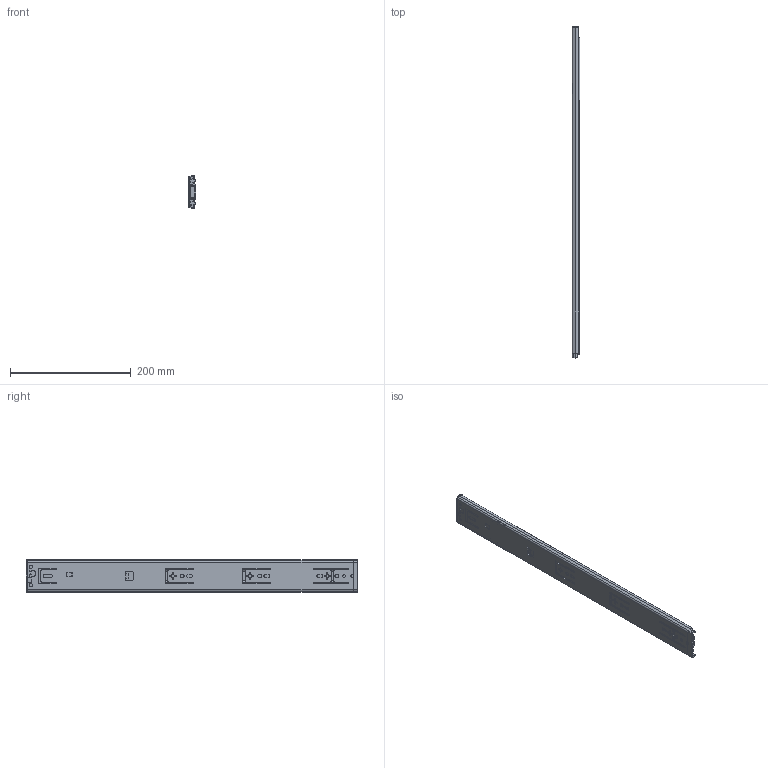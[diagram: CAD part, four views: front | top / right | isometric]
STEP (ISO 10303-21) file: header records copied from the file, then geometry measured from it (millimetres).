
FILE_DESCRIPTION( ( 'Unknown' ), '1' );
FILE_NAME( 'C:/Users/rd30/Desktop/85A01-550-Close.stp', 'Unknown', ( 'Unknown' ), ( 'Unknown' ), 'PSStep 14.0', 'Unknown', ' ' );
FILE_SCHEMA( ( 'AUTOMOTIVE_DESIGN { 1 0 10303 214 1 1 1 1 }' ) );
Length unit declared in the file: millimetre
Products named in the file (8): P10-366-3-1; P10-367-130429; 本體(卡式)20130423-\X2\4FEE6A21571\X0\; Assem1; 85A01P11-02-550; 85A01P21-03-550; 85A01P30-04-550; 85A01P30-04-B
Assembly tree (7 placements, depth 3):
  Assem1
    85A01P11-02-550
    85A01P21-03-550
    85A01P30-04-550
    85A01P30-04-B
    P10-366-3-1
      P10-367-130429
      本體(卡式)20130423-\X2\4FEE6A21571\X0\
Bounding box: 12.6 x 550 x 55.37 mm (x, y, z)
Volume: 202197.6 mm3; surface area: 176491.1 mm2
Topology: 6 solids, 6 shells, 683 faces, 1960 edges, 1287 vertices
Faces by surface type: plane 332, cylinder 291, cone 32, torus 24, bspline 2, sphere 2
Full cylindrical faces by diameter (mm): 1.4 x1, 3 x1, 3.2 x1, 4.6 x1, 5 x4, 5.1 x1, 5.5 x1, 6.25 x1, 6.4 x3
Entity records: 28414 total; most frequent: CARTESIAN_POINT 4302, DIRECTION 3876, ORIENTED_EDGE 3858, EDGE_CURVE 1929, AXIS2_PLACEMENT_3D 1341, VERTEX_POINT 1275, LINE 1194, VECTOR 1194
